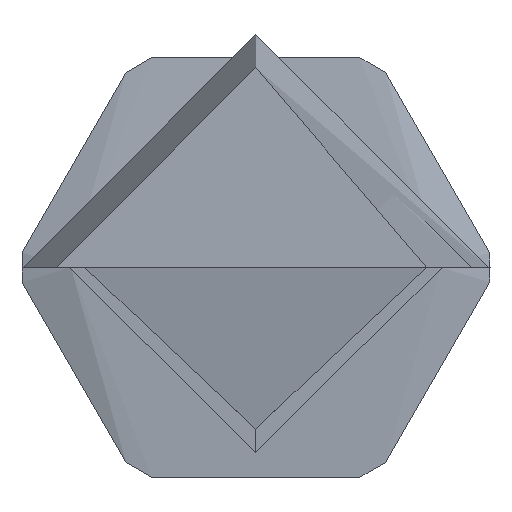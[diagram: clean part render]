
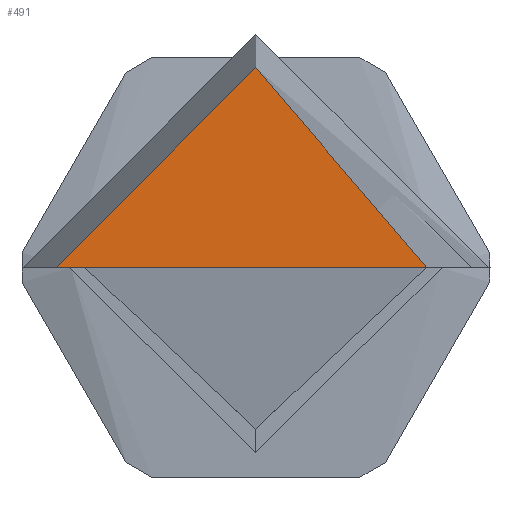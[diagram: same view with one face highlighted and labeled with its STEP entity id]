
A CAD part, left-side view. The second image highlights one B-rep face of the part: STEP entity #491.
In plain terms, the highlighted free-form (B-spline) face has degree [1, 1] with [2, 2] control points.
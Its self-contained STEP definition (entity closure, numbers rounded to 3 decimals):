
#491 = ADVANCED_FACE('',(#492,#514),#536,.T.);
#492 = FACE_BOUND('',#493,.T.);
#493 = EDGE_LOOP('',(#494,#504));
#494 = ORIENTED_EDGE('',*,*,#495,.F.);
#495 = EDGE_CURVE('',#496,#498,#500,.T.);
#496 = VERTEX_POINT('',#497);
#497 = CARTESIAN_POINT('',(0.,12.85,0.));
#498 = VERTEX_POINT('',#499);
#499 = CARTESIAN_POINT('',(0.,0.,12.85));
#500 = ( BOUNDED_CURVE() B_SPLINE_CURVE(2,(#501,#502,#503),
.UNSPECIFIED.,.F.,.F.) B_SPLINE_CURVE_WITH_KNOTS((3,3),(0.,
1.571),.PIECEWISE_BEZIER_KNOTS.) CURVE() 
GEOMETRIC_REPRESENTATION_ITEM() RATIONAL_B_SPLINE_CURVE((1.,
0.707,1.)) REPRESENTATION_ITEM('') );
#501 = CARTESIAN_POINT('',(0.,12.85,0.));
#502 = CARTESIAN_POINT('',(0.,12.85,12.85));
#503 = CARTESIAN_POINT('',(0.,0.,12.85));
#504 = ORIENTED_EDGE('',*,*,#505,.F.);
#505 = EDGE_CURVE('',#498,#496,#506,.T.);
#506 = ( BOUNDED_CURVE() B_SPLINE_CURVE(2,(#507,#508,#509,#510,#511,#512
,#513),.UNSPECIFIED.,.F.,.F.) B_SPLINE_CURVE_WITH_KNOTS((3,2,2,3),(
    1.571,3.142,4.712,6.283),
.UNSPECIFIED.) CURVE() GEOMETRIC_REPRESENTATION_ITEM() 
RATIONAL_B_SPLINE_CURVE((1.,0.707,1.,0.707,1.,
0.707,1.)) REPRESENTATION_ITEM('') );
#507 = CARTESIAN_POINT('',(0.,0.,12.85));
#508 = CARTESIAN_POINT('',(0.,-12.85,12.85));
#509 = CARTESIAN_POINT('',(0.,-12.85,0.));
#510 = CARTESIAN_POINT('',(0.,-12.85,-12.85));
#511 = CARTESIAN_POINT('',(0.,0.,-12.85));
#512 = CARTESIAN_POINT('',(0.,12.85,-12.85));
#513 = CARTESIAN_POINT('',(0.,12.85,0.));
#514 = FACE_BOUND('',#515,.T.);
#515 = EDGE_LOOP('',(#516,#528));
#516 = ORIENTED_EDGE('',*,*,#517,.T.);
#517 = EDGE_CURVE('',#518,#520,#522,.T.);
#518 = VERTEX_POINT('',#519);
#519 = CARTESIAN_POINT('',(0.,11.,0.));
#520 = VERTEX_POINT('',#521);
#521 = CARTESIAN_POINT('',(0.,-11.,0.));
#522 = ( BOUNDED_CURVE() B_SPLINE_CURVE(2,(#523,#524,#525,#526,#527),
.UNSPECIFIED.,.F.,.F.) B_SPLINE_CURVE_WITH_KNOTS((3,2,3),(0.,
1.571,3.142),.UNSPECIFIED.) CURVE() 
GEOMETRIC_REPRESENTATION_ITEM() RATIONAL_B_SPLINE_CURVE((1.,
0.707,1.,0.707,1.)) REPRESENTATION_ITEM('') );
#523 = CARTESIAN_POINT('',(0.,11.,0.));
#524 = CARTESIAN_POINT('',(0.,11.,11.));
#525 = CARTESIAN_POINT('',(0.,0.,11.));
#526 = CARTESIAN_POINT('',(0.,-11.,11.));
#527 = CARTESIAN_POINT('',(0.,-11.,0.));
#528 = ORIENTED_EDGE('',*,*,#529,.T.);
#529 = EDGE_CURVE('',#520,#518,#530,.T.);
#530 = ( BOUNDED_CURVE() B_SPLINE_CURVE(2,(#531,#532,#533,#534,#535),
.UNSPECIFIED.,.F.,.F.) B_SPLINE_CURVE_WITH_KNOTS((3,2,3),(3.142,
4.712,6.283),.PIECEWISE_BEZIER_KNOTS.) CURVE() 
GEOMETRIC_REPRESENTATION_ITEM() RATIONAL_B_SPLINE_CURVE((1.,
0.707,1.,0.707,1.)) REPRESENTATION_ITEM('') );
#531 = CARTESIAN_POINT('',(0.,-11.,0.));
#532 = CARTESIAN_POINT('',(0.,-11.,-11.));
#533 = CARTESIAN_POINT('',(0.,0.,-11.));
#534 = CARTESIAN_POINT('',(0.,11.,-11.));
#535 = CARTESIAN_POINT('',(0.,11.,0.));
#536 = B_SPLINE_SURFACE_WITH_KNOTS('',1,1,(
    (#537,#538)
    ,(#539,#540
    )),.UNSPECIFIED.,.F.,.F.,.F.,(2,2),(2,2),(-1.286,1.286),(-2.479,
    0.094),.PIECEWISE_BEZIER_KNOTS.);
#537 = CARTESIAN_POINT('',(0.,-12.86,-12.86));
#538 = CARTESIAN_POINT('',(0.,12.86,-12.86));
#539 = CARTESIAN_POINT('',(0.,-12.86,12.86));
#540 = CARTESIAN_POINT('',(0.,12.86,12.86));
